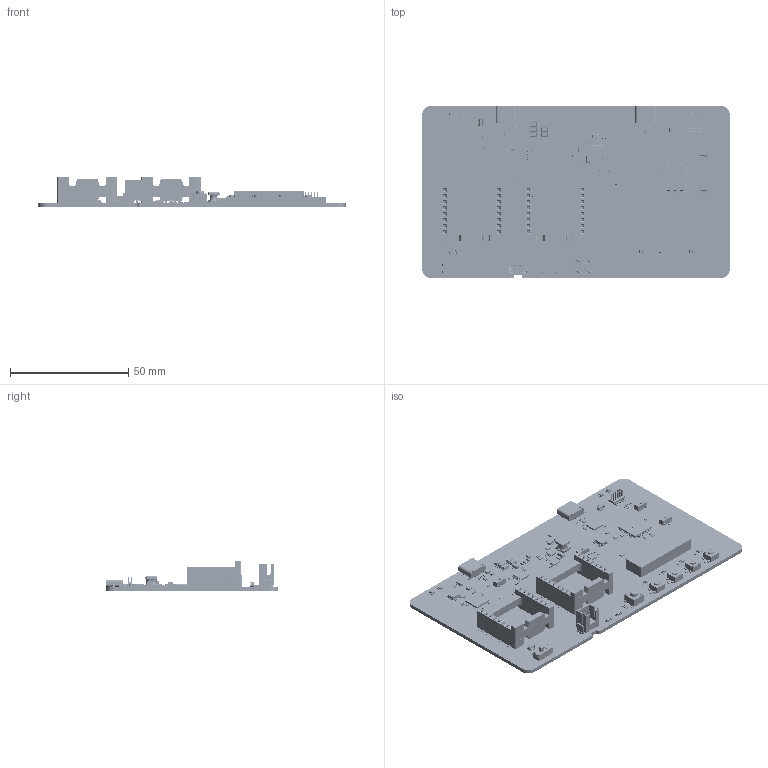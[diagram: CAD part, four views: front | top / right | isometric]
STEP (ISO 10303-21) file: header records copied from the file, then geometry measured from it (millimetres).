
FILE_DESCRIPTION(('Open CASCADE Model'),'2;1');
FILE_NAME('Open CASCADE Shape Model','2026-03-18T16:28:37',('Author'),( 'Open CASCADE'),'Open CASCADE STEP processor 7.5','Open CASCADE 7.5' ,'Unknown');
FILE_SCHEMA(('AUTOMOTIVE_DESIGN { 1 0 10303 214 1 1 1 1 }'));
Length unit declared in the file: millimetre
Products named in the file (1189): PCB; Board; Open CASCADE STEP translator 7.5 1.1.1; JP3; User Library-R_0805; JP2; R26; User Library-R_0402; R15; U1; TQFP64; R9; C28; User Library-SMD CAPACITOR0402; C11; U9; QFN-16; JP5; JP4; R61; Q3; SOT323 (SC70-3)-1; User Library-SOT323 (SC70-3)-1_K_X_F6rper_1; User Library-SOT323 (SC70-3)-1_Beschriftung_1; User Library-SOT323 (SC70-3)-1_Pins_1; M4; SOT23-3; C35; User Library-SMD CAPACITOR0603; R60; User Library-R_0603; R59; D6; TV02W-L; C2; User Library-SMD CAPACITOR0805; C33; FP3; User Library-ind_0805; C7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
Assembly tree (1374 placements, depth 13):
  PCB
    Board
      Open CASCADE STEP translator 7.5 1.1.1
    JP3
      User Library-R_0805
    JP2
      User Library-R_0805
    R26
      User Library-R_0402
    R15
      User Library-R_0402
    U1
      TQFP64
    R9
      User Library-R_0402
    C28
      User Library-SMD CAPACITOR0402
    C11
      User Library-SMD CAPACITOR0402
    U9
      QFN-16
    JP5
      User Library-R_0805
    JP4
      User Library-R_0805
    R61
      User Library-R_0402
    Q3
      SOT323 (SC70-3)-1
        User Library-SOT323 (SC70-3)-1_K_X_F6rper_1
        User Library-SOT323 (SC70-3)-1_Beschriftung_1
        User Library-SOT323 (SC70-3)-1_Pins_1  x3
    M4
      SOT23-3
    C35
      User Library-SMD CAPACITOR0603
    R60
      User Library-R_0603
    R59
      User Library-R_0402
    D6
      TV02W-L
    C2
      User Library-SMD CAPACITOR0805
    C33
      User Library-SMD CAPACITOR0805
    FP3
      User Library-ind_0805
    C7
      User Library-SMD CAPACITOR0603
    TP7
      s1751-46r
    TP6
      s1751-46r
    R56
      User Library-R_0402
    R55
      User Library-R_0402
    R54
      User Library-R_0402
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Bounding box: 130 x 73 x 12.66 mm (x, y, z)
Volume: 18520.6 mm3; surface area: 33634.6 mm2
Topology: 608 solids, 6691 shells, 21470 faces, 72861 edges, 59026 vertices
Faces by surface type: plane 14589, bspline 3175, cylinder 3065, sphere 368, cone 205, extrusion 49, torus 19
Full cylindrical faces by diameter (mm): 0.163 x1, 0.25 x1, 0.6 x4, 0.762 x16, 1.2 x4
Entity records: 295846 total; most frequent: CARTESIAN_POINT 64217, ORIENTED_EDGE 34235, DIRECTION 33364, EDGE_CURVE 19905, VECTOR 15714, LINE 15665, VERTEX_POINT 14911, AXIS2_PLACEMENT_3D 8825
